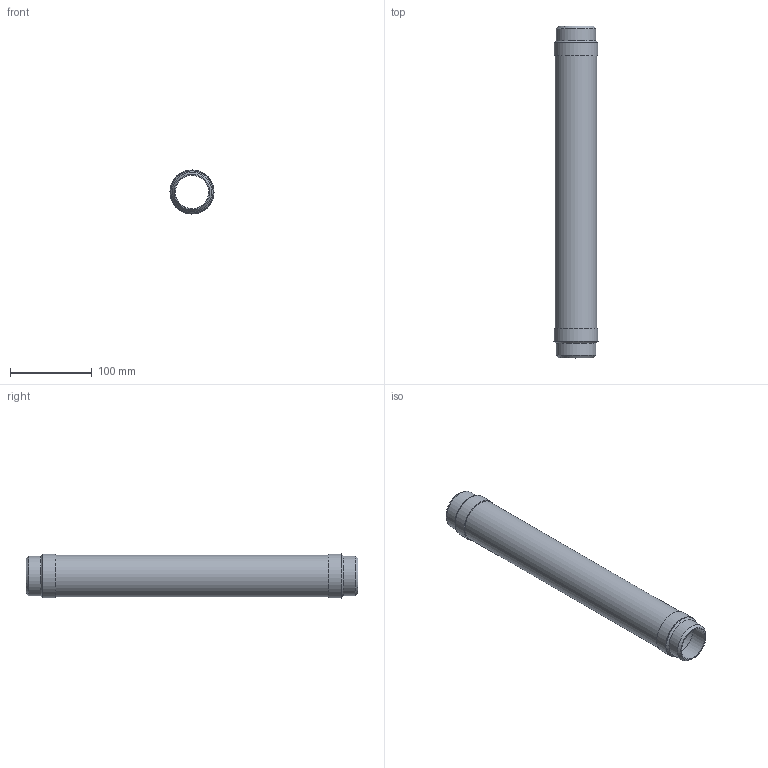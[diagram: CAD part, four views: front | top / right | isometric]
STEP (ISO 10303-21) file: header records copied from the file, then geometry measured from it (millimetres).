
FILE_DESCRIPTION(/* description */ (''),/* implementation_level */ '2;1');
FILE_NAME(/* name */ 'C:\001_Work\Designs\CSAWN\CSAWN-1.5x16.stp',/* time_stamp */ '2016-06-04T17:14:33-04:00',/* author */ ('rramoutar'),/* organization */ ('Mason Industries Inc.'),/* preprocessor_version */ 'ST-DEVELOPER v15.6',/* originating_system */ 'Autodesk Inventor 2015',/* authorisation */ '');
FILE_SCHEMA (('CONFIG_CONTROL_DESIGN'));
Length unit declared in the file: inch
Products named in the file (1): CSAWN-1.5x16
Bounding box: 53.88 x 406.4 x 53.88 mm (x, y, z)
Volume: 49217 mm3; surface area: 143264.8 mm2
Topology: 5 solids, 5 shells, 24 faces, 40 edges, 26 vertices
Faces by surface type: cylinder 10, plane 10, cone 4
Full cylindrical faces by diameter (mm): 40.894 x2, 48.514 x2, 50.8 x1, 51.511 x3, 53.892 x2
Entity records: 564 total; most frequent: DIRECTION 98, CARTESIAN_POINT 73, AXIS2_PLACEMENT_3D 49, EDGE_LOOP 48, ORIENTED_EDGE 48, STYLED_ITEM 29, FACE_BOUND 24, FACE_OUTER_BOUND 24
